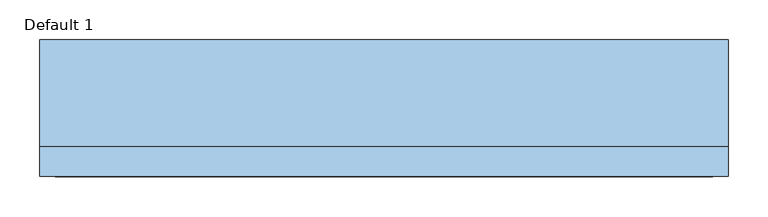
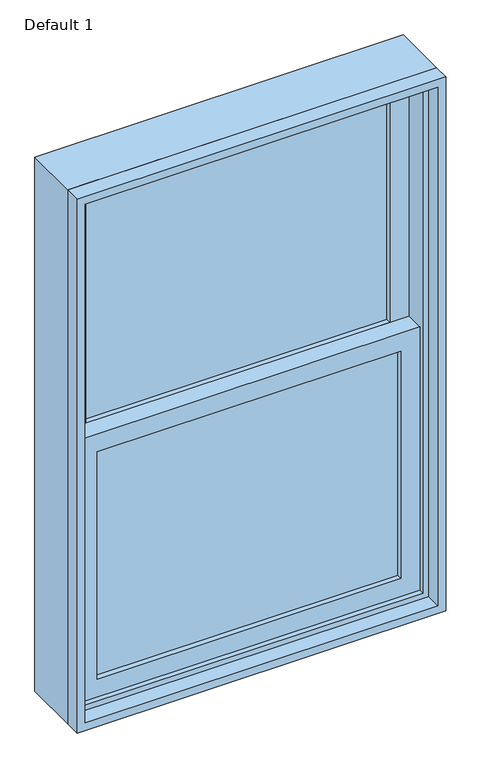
"""IFC4 building model written with IfcOpenShell, lengths in millimetres: window geometry, Planitar-Double-Hung-Single : Default 1."""

from ifc_helpers import new_model, si_unit, frame, origin, place, context, project, spatial, polyline, outline, extrude, source, transform, mapped, element, save


def default_1_7922284d(model_context):
    return source(origin(), model_context, "Body", "SweptSolid", [
        extrude(outline(polyline([(355.6, 6.35), (355.6, 0.0), (-355.6, 0.0), (-355.6, 6.35), (355.6, 6.35)])), frame((0.0, 0.0, 990.6), z_axis=(0.0, 0.0, 1.0), x_axis=(1.0, 0.0, 0.0)), (0.0, 0.0, 1.0), 561.975),
        extrude(outline(polyline([(-355.6, -6.35), (355.6, -6.35), (355.6, -12.7), (-355.6, -12.7), (-355.6, -6.35)])), frame((0.0, 0.0, 990.6), z_axis=(0.0, 0.0, 1.0), x_axis=(1.0, 0.0, 0.0)), (0.0, 0.0, 1.0), 561.975),
        extrude(outline(polyline([(355.6, 50.8), (355.6, 44.45), (-355.6, 44.45), (-355.6, 50.8), (355.6, 50.8)])), frame((0.0, 0.0, 1597.025), z_axis=(0.0, 0.0, 1.0), x_axis=(1.0, 0.0, 0.0)), (0.0, 0.0, 1.0), 561.975),
        extrude(outline(polyline([(-355.6, 38.1), (355.6, 38.1), (355.6, 31.75), (-355.6, 31.75), (-355.6, 38.1)])), frame((0.0, 0.0, 1597.025), z_axis=(0.0, 0.0, 1.0), x_axis=(1.0, 0.0, 0.0)), (0.0, 0.0, 1.0), 561.975),
        extrude(outline(polyline([(1597.025, -400.05), (946.15, -400.05), (946.15, 400.05), (1597.025, 400.05), (1597.025, -400.05)]), holes=[polyline([(1552.575, 355.6), (990.6, 355.6), (990.6, -355.6), (1552.575, -355.6), (1552.575, 355.6)])]), frame((0.0, -25.4, 0.0), z_axis=(0.0, 1.0, 0.0), x_axis=(0.0, 0.0, 1.0)), (0.0, 0.0, 1.0), 44.45),
        extrude(outline(polyline([(2203.45, -400.05), (1552.575, -400.05), (1552.575, 400.05), (2203.45, 400.05), (2203.45, -400.05)]), holes=[polyline([(2159.0, 355.6), (1597.025, 355.6), (1597.025, -355.6), (2159.0, -355.6), (2159.0, 355.6)])]), frame((0.0, 19.05, 0.0), z_axis=(0.0, 1.0, 0.0), x_axis=(0.0, 0.0, 1.0)), (0.0, 0.0, 1.0), 44.45),
        extrude(outline(polyline([(2235.2, -431.8), (914.4, -431.8), (914.4, 431.8), (2235.2, 431.8), (2235.2, -431.8)]), holes=[polyline([(2203.45, 400.05), (946.15, 400.05), (946.15, -400.05), (2203.45, -400.05), (2203.45, 400.05)])]), frame((0.0, -38.1, 0.0), z_axis=(0.0, 1.0, 0.0), x_axis=(0.0, 0.0, 1.0)), (0.0, 0.0, 1.0), 133.35),
        extrude(outline(polyline([(2235.2, 431.8), (2235.2, -431.8), (914.4, -431.8), (914.4, 431.8), (2235.2, 431.8)]), holes=[polyline([(2216.15, 412.75), (933.45, 412.75), (933.45, -412.75), (2216.15, -412.75), (2216.15, 412.75)])]), frame((0.0, -76.2, 0.0), z_axis=(0.0, 1.0, 0.0), x_axis=(0.0, 0.0, 1.0)), (0.0, 0.0, 1.0), 38.1),
    ])


if __name__ == "__main__":
    model = new_model("IFC4")
    model_context = context("Model", 3, world=origin())
    ifc_project = project(units=[si_unit("LENGTHUNIT", "METRE", prefix="MILLI")], contexts=[model_context])
    site = spatial("IfcSite", under=ifc_project)
    building = spatial("IfcBuilding", under=site)
    placement = place(None, origin())
    default_1_shape = default_1_7922284d(model_context)
    element("IfcWindow", 1, ObjectType="Planitar-Double-Hung-Single : Default 1", at=placement, inside=building, context=model_context, shape_type="MappedRepresentation", body=[
        mapped(default_1_shape, transform((0.0, 0.0, 0.0), x_axis=(1.0, 0.0, 0.0), y_axis=(0.0, 1.0, 0.0), z_axis=(0.0, 0.0, 1.0))),
    ])
    save(model, "model.ifc")
